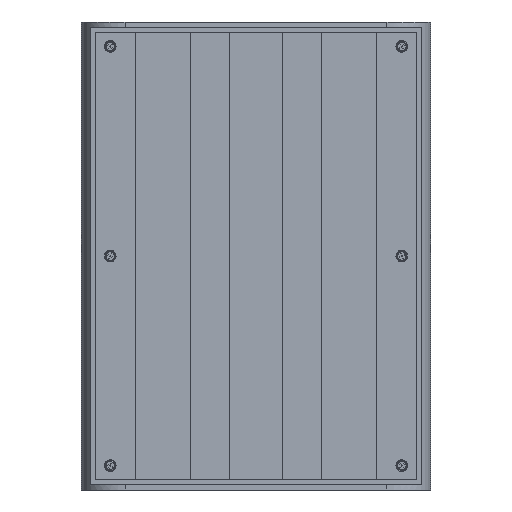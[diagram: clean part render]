
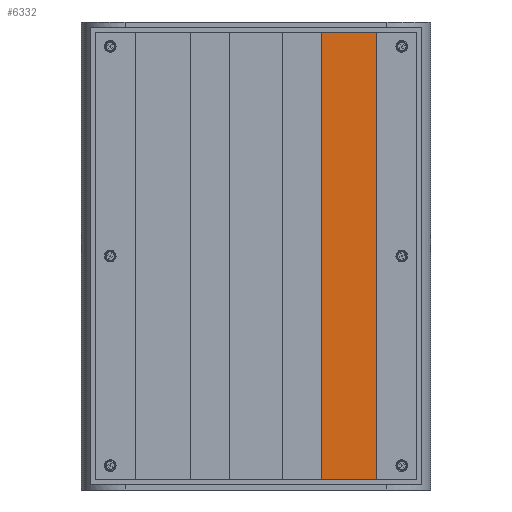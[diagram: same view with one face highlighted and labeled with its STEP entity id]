
A CAD part, front view. The second image highlights one B-rep face of the part: STEP entity #6332.
In plain terms, the highlighted planar face has unit normal (0, -1, 0).
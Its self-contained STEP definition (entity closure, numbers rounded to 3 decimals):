
#602 = VERTEX_POINT ( 'NONE', #6002 ) ;
#915 = ORIENTED_EDGE ( 'NONE', *, *, #20913, .T. ) ;
#1721 = CARTESIAN_POINT ( 'NONE',  ( 69.05, -27.5, 128. ) ) ;
#1896 = CARTESIAN_POINT ( 'NONE',  ( 37.55, -27.5, 128. ) ) ;
#2013 = EDGE_CURVE ( 'NONE', #6287, #15386, #15094, .T. ) ;
#2679 = PLANE ( 'NONE',  #14652 ) ;
#2971 = DIRECTION ( 'NONE',  ( 1., 0., 0. ) ) ;
#3698 = VECTOR ( 'NONE', #13357, 1000. ) ;
#5873 = VECTOR ( 'NONE', #2971, 1000. ) ;
#6002 = CARTESIAN_POINT ( 'NONE',  ( 37.55, -27.5, 128. ) ) ;
#6096 = CARTESIAN_POINT ( 'NONE',  ( 69.05, -27.5, -128. ) ) ;
#6246 = CARTESIAN_POINT ( 'NONE',  ( 37.55, -27.5, -128. ) ) ;
#6287 = VERTEX_POINT ( 'NONE', #12438 ) ;
#6332 = ADVANCED_FACE ( 'NONE', ( #7759 ), #2679, .T. ) ;
#6548 = ORIENTED_EDGE ( 'NONE', *, *, #2013, .T. ) ;
#7076 = DIRECTION ( 'NONE',  ( 0., 0., -1. ) ) ;
#7759 = FACE_OUTER_BOUND ( 'NONE', #14010, .T. ) ;
#9265 = CARTESIAN_POINT ( 'NONE',  ( 0., -27.5, 0. ) ) ;
#10305 = LINE ( 'NONE', #1721, #14658 ) ;
#10920 = EDGE_CURVE ( 'NONE', #602, #6287, #18284, .T. ) ;
#10929 = DIRECTION ( 'NONE',  ( 0., 0., -1. ) ) ;
#12438 = CARTESIAN_POINT ( 'NONE',  ( 37.55, -27.5, -128. ) ) ;
#12593 = EDGE_CURVE ( 'NONE', #15386, #18144, #10305, .T. ) ;
#12951 = LINE ( 'NONE', #1896, #3698 ) ;
#13357 = DIRECTION ( 'NONE',  ( -1., 0., 0. ) ) ;
#14010 = EDGE_LOOP ( 'NONE', ( #19739, #6548, #15689, #915 ) ) ;
#14652 = AXIS2_PLACEMENT_3D ( 'NONE', #9265, #20677, #10929 ) ;
#14658 = VECTOR ( 'NONE', #18005, 1000. ) ;
#15094 = LINE ( 'NONE', #6246, #5873 ) ;
#15386 = VERTEX_POINT ( 'NONE', #6096 ) ;
#15689 = ORIENTED_EDGE ( 'NONE', *, *, #12593, .T. ) ;
#16864 = CARTESIAN_POINT ( 'NONE',  ( 37.55, -27.5, 128. ) ) ;
#18005 = DIRECTION ( 'NONE',  ( 0., 0., 1. ) ) ;
#18144 = VERTEX_POINT ( 'NONE', #20695 ) ;
#18284 = LINE ( 'NONE', #16864, #18795 ) ;
#18795 = VECTOR ( 'NONE', #7076, 1000. ) ;
#19739 = ORIENTED_EDGE ( 'NONE', *, *, #10920, .T. ) ;
#20677 = DIRECTION ( 'NONE',  ( 0., -1., 0. ) ) ;
#20695 = CARTESIAN_POINT ( 'NONE',  ( 69.05, -27.5, 128. ) ) ;
#20913 = EDGE_CURVE ( 'NONE', #18144, #602, #12951, .T. ) ;
